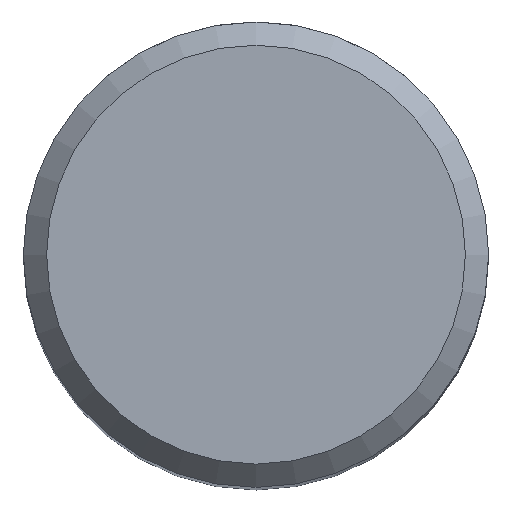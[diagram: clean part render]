
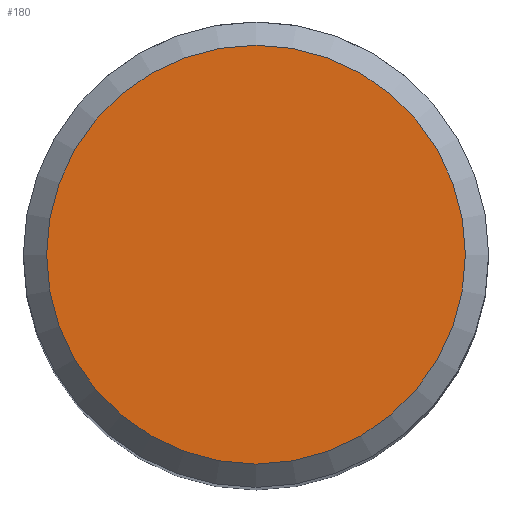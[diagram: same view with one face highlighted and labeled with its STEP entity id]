
A CAD part, top view. The second image highlights one B-rep face of the part: STEP entity #180.
In plain terms, the highlighted planar face has unit normal (0, 0, 1).
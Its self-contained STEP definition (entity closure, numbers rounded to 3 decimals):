
#91=FACE_OUTER_BOUND('',#277,.T.);
#108=PLANE('',#584);
#180=ADVANCED_FACE('',(#91),#108,.F.);
#277=EDGE_LOOP('',(#332));
#332=ORIENTED_EDGE('',*,*,#418,.F.);
#388=VERTEX_POINT('',#883);
#418=EDGE_CURVE('',#388,#388,#442,.T.);
#442=CIRCLE('',#582,9.);
#582=AXIS2_PLACEMENT_3D('',#882,#692,#693);
#584=AXIS2_PLACEMENT_3D('',#885,#696,#697);
#692=DIRECTION('',(0.,0.,-1.));
#693=DIRECTION('',(1.,0.,0.));
#696=DIRECTION('',(0.,0.,-1.));
#697=DIRECTION('',(-1.,0.,0.));
#882=CARTESIAN_POINT('',(0.,0.,25.));
#883=CARTESIAN_POINT('',(9.,0.,25.));
#885=CARTESIAN_POINT('',(0.,0.,25.));
